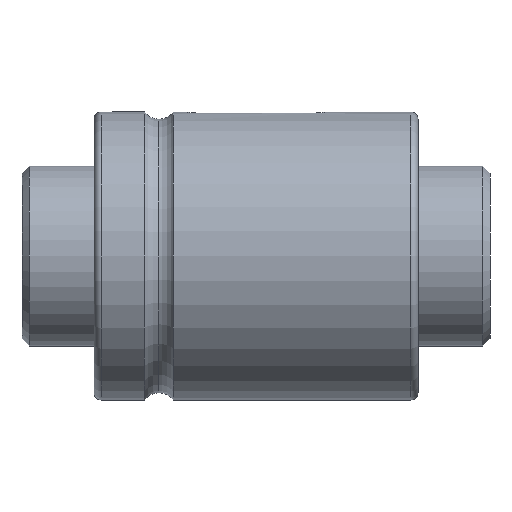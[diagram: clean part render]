
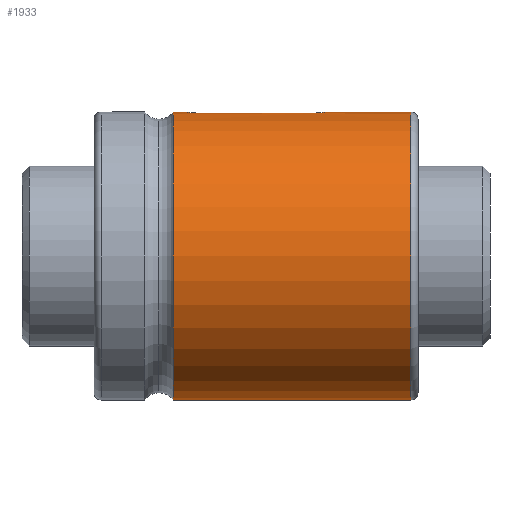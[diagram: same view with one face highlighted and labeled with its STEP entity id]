
A CAD part, front view. The second image highlights one B-rep face of the part: STEP entity #1933.
In plain terms, the highlighted cylindrical face has radius 20 mm (diameter 40 mm), a partial arc.
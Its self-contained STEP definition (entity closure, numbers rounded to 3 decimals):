
#29 = CIRCLE ( 'NONE', #2399, 20. ) ;
#282 = CARTESIAN_POINT ( 'NONE',  ( 30., -2.5, 19.843 ) ) ;
#321 = CARTESIAN_POINT ( 'NONE',  ( 32.5, 0., 20. ) ) ;
#354 = DIRECTION ( 'NONE',  ( 0., 0., 1. ) ) ;
#362 = CARTESIAN_POINT ( 'NONE',  ( 31.989, -1.524, 19.942 ) ) ;
#409 = CARTESIAN_POINT ( 'NONE',  ( 44., 0., -20. ) ) ;
#427 = CARTESIAN_POINT ( 'NONE',  ( 13.476, -1.989, 19.901 ) ) ;
#464 = ORIENTED_EDGE ( 'NONE', *, *, #2753, .T. ) ;
#469 = CARTESIAN_POINT ( 'NONE',  ( 12.5, 0., 20. ) ) ;
#538 = FACE_OUTER_BOUND ( 'NONE', #2533, .T. ) ;
#624 = VERTEX_POINT ( 'NONE', #321 ) ;
#632 = EDGE_CURVE ( 'NONE', #624, #1824, #1518, .T. ) ;
#657 = DIRECTION ( 'NONE',  ( -1., 0., 0. ) ) ;
#668 = CYLINDRICAL_SURFACE ( 'NONE', #3484, 20. ) ;
#691 = CARTESIAN_POINT ( 'NONE',  ( 31.653, -1.882, 19.912 ) ) ;
#719 = CARTESIAN_POINT ( 'NONE',  ( 13.014, -1.528, 19.942 ) ) ;
#730 = CARTESIAN_POINT ( 'NONE',  ( 13.118, -1.653, 19.932 ) ) ;
#761 = CARTESIAN_POINT ( 'NONE',  ( 13.891, -2.247, 19.874 ) ) ;
#813 = DIRECTION ( 'NONE',  ( 0., 0., -1. ) ) ;
#888 = ORIENTED_EDGE ( 'NONE', *, *, #2723, .T. ) ;
#906 = VECTOR ( 'NONE', #1283, 1000. ) ;
#908 = EDGE_CURVE ( 'NONE', #1824, #2760, #2058, .T. ) ;
#974 = ORIENTED_EDGE ( 'NONE', *, *, #908, .T. ) ;
#987 = CARTESIAN_POINT ( 'NONE',  ( 32.484, -0.328, 19.998 ) ) ;
#988 = VERTEX_POINT ( 'NONE', #1259 ) ;
#1004 = LINE ( 'NONE', #3745, #2695 ) ;
#1056 = CARTESIAN_POINT ( 'NONE',  ( 45., 0., 0. ) ) ;
#1072 = CARTESIAN_POINT ( 'NONE',  ( 13.748, -2.17, 19.882 ) ) ;
#1125 = CARTESIAN_POINT ( 'NONE',  ( 12.5, 0., 20. ) ) ;
#1202 = EDGE_CURVE ( 'NONE', #2307, #1359, #29, .T. ) ;
#1257 = CARTESIAN_POINT ( 'NONE',  ( 32.247, -1.109, 19.97 ) ) ;
#1259 = CARTESIAN_POINT ( 'NONE',  ( 11., 0., -20. ) ) ;
#1268 = CARTESIAN_POINT ( 'NONE',  ( 31.11, -2.246, 19.874 ) ) ;
#1282 = CARTESIAN_POINT ( 'NONE',  ( 31.255, -2.169, 19.882 ) ) ;
#1283 = DIRECTION ( 'NONE',  ( -1., 0., 0. ) ) ;
#1304 = CARTESIAN_POINT ( 'NONE',  ( 32.372, -0.806, 19.984 ) ) ;
#1338 = DIRECTION ( 'NONE',  ( 0., 0., 1. ) ) ;
#1359 = VERTEX_POINT ( 'NONE', #3237 ) ;
#1425 = LINE ( 'NONE', #2464, #906 ) ;
#1498 = ORIENTED_EDGE ( 'NONE', *, *, #2409, .F. ) ;
#1518 = B_SPLINE_CURVE_WITH_KNOTS ( 'NONE', 3,
 ( #2358, #3331, #987, #3009, #1304, #1257, #3623, #362, #2430, #691, #2119, #1282, #1268, #3309, #3346, #2165 ),
 .UNSPECIFIED., .F., .F.,
 ( 4, 2, 2, 2, 2, 2, 2, 4 ),
 ( 0.004, 0.004, 0.005, 0.005, 0.006, 0.006, 0.007, 0.008 ),
 .UNSPECIFIED. ) ;
#1578 = B_SPLINE_CURVE_WITH_KNOTS ( 'NONE', 3,
 ( #2814, #2178, #3367, #2194, #2529, #761, #1072, #427, #2489, #730, #719, #1929, #2478, #1920, #2790, #469 ),
 .UNSPECIFIED., .F., .F.,
 ( 4, 2, 2, 2, 2, 2, 2, 4 ),
 ( -0.004, -0.003, -0.003, -0.002, -0.002, -0.001, -0.001, 0. ),
 .UNSPECIFIED. ) ;
#1598 = VERTEX_POINT ( 'NONE', #1125 ) ;
#1686 = CIRCLE ( 'NONE', #1716, 20. ) ;
#1716 = AXIS2_PLACEMENT_3D ( 'NONE', #3255, #2121, #354 ) ;
#1762 = CARTESIAN_POINT ( 'NONE',  ( 45., -2.5, 19.843 ) ) ;
#1804 = ORIENTED_EDGE ( 'NONE', *, *, #1202, .T. ) ;
#1815 = DIRECTION ( 'NONE',  ( -1., 0., 0. ) ) ;
#1818 = ORIENTED_EDGE ( 'NONE', *, *, #3444, .T. ) ;
#1824 = VERTEX_POINT ( 'NONE', #282 ) ;
#1920 = CARTESIAN_POINT ( 'NONE',  ( 12.567, -0.659, 19.991 ) ) ;
#1929 = CARTESIAN_POINT ( 'NONE',  ( 12.831, -1.255, 19.961 ) ) ;
#1933 = ADVANCED_FACE ( 'NONE', ( #538 ), #668, .T. ) ;
#1997 = DIRECTION ( 'NONE',  ( -1., 0., 0. ) ) ;
#2058 = LINE ( 'NONE', #1762, #2744 ) ;
#2092 = ORIENTED_EDGE ( 'NONE', *, *, #632, .T. ) ;
#2119 = CARTESIAN_POINT ( 'NONE',  ( 31.528, -1.986, 19.901 ) ) ;
#2121 = DIRECTION ( 'NONE',  ( 1., 0., 0. ) ) ;
#2165 = CARTESIAN_POINT ( 'NONE',  ( 30., -2.5, 19.843 ) ) ;
#2178 = CARTESIAN_POINT ( 'NONE',  ( 14.835, -2.5, 19.843 ) ) ;
#2194 = CARTESIAN_POINT ( 'NONE',  ( 14.353, -2.42, 19.853 ) ) ;
#2216 = DIRECTION ( 'NONE',  ( -1., 0., 0. ) ) ;
#2305 = VERTEX_POINT ( 'NONE', #2748 ) ;
#2307 = VERTEX_POINT ( 'NONE', #409 ) ;
#2358 = CARTESIAN_POINT ( 'NONE',  ( 32.5, 0., 20. ) ) ;
#2371 = ORIENTED_EDGE ( 'NONE', *, *, #2848, .T. ) ;
#2399 = AXIS2_PLACEMENT_3D ( 'NONE', #2840, #1997, #813 ) ;
#2409 = EDGE_CURVE ( 'NONE', #2307, #988, #1004, .T. ) ;
#2430 = CARTESIAN_POINT ( 'NONE',  ( 31.883, -1.652, 19.932 ) ) ;
#2464 = CARTESIAN_POINT ( 'NONE',  ( 45., 0., 20. ) ) ;
#2478 = CARTESIAN_POINT ( 'NONE',  ( 12.754, -1.11, 19.97 ) ) ;
#2489 = CARTESIAN_POINT ( 'NONE',  ( 13.348, -1.883, 19.911 ) ) ;
#2529 = CARTESIAN_POINT ( 'NONE',  ( 14.194, -2.372, 19.859 ) ) ;
#2533 = EDGE_LOOP ( 'NONE', ( #1498, #1804, #464, #2092, #974, #2371, #888, #1818 ) ) ;
#2695 = VECTOR ( 'NONE', #2806, 1000. ) ;
#2706 = CARTESIAN_POINT ( 'NONE',  ( 45., 0., 20. ) ) ;
#2723 = EDGE_CURVE ( 'NONE', #1598, #2305, #3569, .T. ) ;
#2744 = VECTOR ( 'NONE', #1815, 1000. ) ;
#2748 = CARTESIAN_POINT ( 'NONE',  ( 11., 0., 20. ) ) ;
#2753 = EDGE_CURVE ( 'NONE', #1359, #624, #1425, .T. ) ;
#2760 = VERTEX_POINT ( 'NONE', #3632 ) ;
#2790 = CARTESIAN_POINT ( 'NONE',  ( 12.5, -0.33, 20. ) ) ;
#2806 = DIRECTION ( 'NONE',  ( -1., 0., 0. ) ) ;
#2814 = CARTESIAN_POINT ( 'NONE',  ( 15., -2.5, 19.843 ) ) ;
#2840 = CARTESIAN_POINT ( 'NONE',  ( 44., 0., 0. ) ) ;
#2848 = EDGE_CURVE ( 'NONE', #2760, #1598, #1578, .T. ) ;
#3009 = CARTESIAN_POINT ( 'NONE',  ( 32.42, -0.647, 19.99 ) ) ;
#3237 = CARTESIAN_POINT ( 'NONE',  ( 44., 0., 20. ) ) ;
#3255 = CARTESIAN_POINT ( 'NONE',  ( 11., 0., 0. ) ) ;
#3297 = VECTOR ( 'NONE', #657, 1000. ) ;
#3309 = CARTESIAN_POINT ( 'NONE',  ( 30.659, -2.433, 19.852 ) ) ;
#3331 = CARTESIAN_POINT ( 'NONE',  ( 32.5, -0.165, 20. ) ) ;
#3346 = CARTESIAN_POINT ( 'NONE',  ( 30.33, -2.5, 19.843 ) ) ;
#3367 = CARTESIAN_POINT ( 'NONE',  ( 14.672, -2.484, 19.845 ) ) ;
#3444 = EDGE_CURVE ( 'NONE', #2305, #988, #1686, .T. ) ;
#3484 = AXIS2_PLACEMENT_3D ( 'NONE', #1056, #2216, #1338 ) ;
#3569 = LINE ( 'NONE', #2706, #3297 ) ;
#3623 = CARTESIAN_POINT ( 'NONE',  ( 32.17, -1.252, 19.961 ) ) ;
#3632 = CARTESIAN_POINT ( 'NONE',  ( 15., -2.5, 19.843 ) ) ;
#3745 = CARTESIAN_POINT ( 'NONE',  ( 45., 0., -20. ) ) ;
